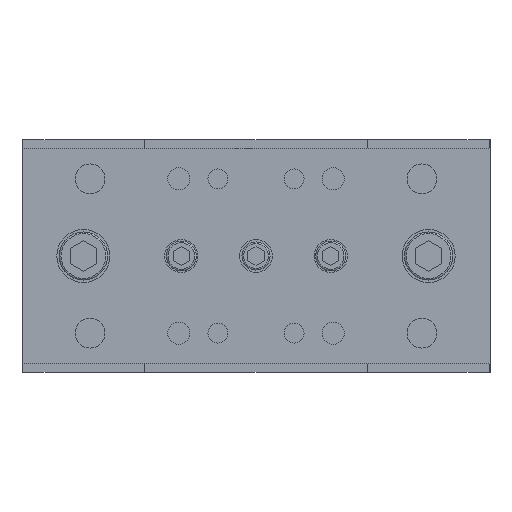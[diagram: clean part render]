
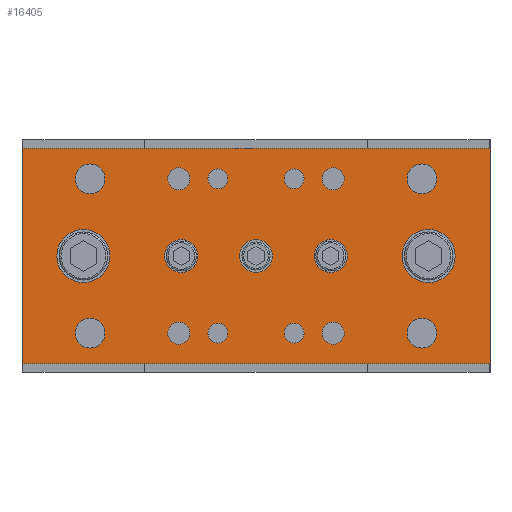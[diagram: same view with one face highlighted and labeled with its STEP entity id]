
A CAD part, front view. The second image highlights one B-rep face of the part: STEP entity #16405.
In plain terms, the highlighted planar face has unit normal (0, -1, 0).
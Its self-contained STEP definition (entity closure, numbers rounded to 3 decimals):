
#15719=CARTESIAN_POINT('',(5.0,-94.,0.));
#15720=VERTEX_POINT('',#15719);
#15721=CARTESIAN_POINT('',(0.0,-94.,0.0));
#15722=DIRECTION('',(0.0,1.0,0.0));
#15723=DIRECTION('',(-1.0,0.0,0.0));
#15724=AXIS2_PLACEMENT_3D('',#15721,#15722,#15723);
#15725=CIRCLE('',#15724,5.0);
#15726=EDGE_CURVE('',#15720,#15720,#15725,.T.);
#15759=CARTESIAN_POINT('',(-17.5,-94.,0.));
#15760=VERTEX_POINT('',#15759);
#15761=CARTESIAN_POINT('',(-22.5,-94.,0.0));
#15762=DIRECTION('',(0.0,1.0,0.0));
#15763=DIRECTION('',(-1.0,0.0,0.0));
#15764=AXIS2_PLACEMENT_3D('',#15761,#15762,#15763);
#15765=CIRCLE('',#15764,5.0);
#15766=EDGE_CURVE('',#15760,#15760,#15765,.T.);
#15799=CARTESIAN_POINT('',(27.5,-94.,0.));
#15800=VERTEX_POINT('',#15799);
#15801=CARTESIAN_POINT('',(22.5,-94.,0.0));
#15802=DIRECTION('',(0.0,1.0,0.0));
#15803=DIRECTION('',(-1.0,0.0,0.0));
#15804=AXIS2_PLACEMENT_3D('',#15801,#15802,#15803);
#15805=CIRCLE('',#15804,5.0);
#15806=EDGE_CURVE('',#15800,#15800,#15805,.T.);
#15839=CARTESIAN_POINT('',(-44.0,-94.,0.));
#15840=VERTEX_POINT('',#15839);
#15841=CARTESIAN_POINT('',(-52.0,-94.,0.0));
#15842=DIRECTION('',(0.0,1.0,0.0));
#15843=DIRECTION('',(-1.0,0.0,0.0));
#15844=AXIS2_PLACEMENT_3D('',#15841,#15842,#15843);
#15845=CIRCLE('',#15844,8.0);
#15846=EDGE_CURVE('',#15840,#15840,#15845,.T.);
#15879=CARTESIAN_POINT('',(60.,-94.,0.));
#15880=VERTEX_POINT('',#15879);
#15881=CARTESIAN_POINT('',(52.,-94.,0.0));
#15882=DIRECTION('',(0.0,1.0,0.0));
#15883=DIRECTION('',(-1.0,0.0,0.0));
#15884=AXIS2_PLACEMENT_3D('',#15881,#15882,#15883);
#15885=CIRCLE('',#15884,8.0);
#15886=EDGE_CURVE('',#15880,#15880,#15885,.T.);
#16219=CARTESIAN_POINT('',(70.5,-94.,0.0));
#16220=DIRECTION('',(0.0,-1.0,0.0));
#16221=DIRECTION('',(0.0,0.0,-1.0));
#16222=AXIS2_PLACEMENT_3D('',#16219,#16220,#16221);
#16223=PLANE('',#16222);
#16224=CARTESIAN_POINT('',(70.5,-94.,32.5));
#16225=VERTEX_POINT('',#16224);
#16226=CARTESIAN_POINT('',(-70.5,-94.,32.5));
#16227=VERTEX_POINT('',#16226);
#16228=CARTESIAN_POINT('',(70.5,-94.,32.5));
#16229=DIRECTION('',(-1.0,0.0,0.0));
#16230=VECTOR('',#16229,141.0);
#16231=LINE('',#16228,#16230);
#16232=EDGE_CURVE('',#16225,#16227,#16231,.T.);
#16233=ORIENTED_EDGE('',*,*,#16232,.T.);
#16234=CARTESIAN_POINT('',(-70.5,-94.,-32.5));
#16235=VERTEX_POINT('',#16234);
#16236=CARTESIAN_POINT('',(-70.5,-94.,32.5));
#16237=DIRECTION('',(0.0,0.0,-1.0));
#16238=VECTOR('',#16237,65.0);
#16239=LINE('',#16236,#16238);
#16240=EDGE_CURVE('',#16227,#16235,#16239,.T.);
#16241=ORIENTED_EDGE('',*,*,#16240,.T.);
#16242=CARTESIAN_POINT('',(70.5,-94.,-32.5));
#16243=VERTEX_POINT('',#16242);
#16244=CARTESIAN_POINT('',(-70.5,-94.,-32.5));
#16245=DIRECTION('',(1.0,0.0,0.0));
#16246=VECTOR('',#16245,141.0);
#16247=LINE('',#16244,#16246);
#16248=EDGE_CURVE('',#16235,#16243,#16247,.T.);
#16249=ORIENTED_EDGE('',*,*,#16248,.T.);
#16250=CARTESIAN_POINT('',(70.5,-94.,32.5));
#16251=DIRECTION('',(0.0,0.0,-1.0));
#16252=VECTOR('',#16251,65.0);
#16253=LINE('',#16250,#16252);
#16254=EDGE_CURVE('',#16225,#16243,#16253,.T.);
#16255=ORIENTED_EDGE('',*,*,#16254,.F.);
#16256=EDGE_LOOP('',(#16233,#16241,#16249,#16255));
#16257=FACE_OUTER_BOUND('',#16256,.T.);
#16258=CARTESIAN_POINT('',(-54.5,-94.,23.25));
#16259=VERTEX_POINT('',#16258);
#16260=CARTESIAN_POINT('',(-50.0,-94.,23.25));
#16261=DIRECTION('',(0.0,1.0,0.0));
#16262=DIRECTION('',(1.0,0.0,0.0));
#16263=AXIS2_PLACEMENT_3D('',#16260,#16261,#16262);
#16264=CIRCLE('',#16263,4.5);
#16265=EDGE_CURVE('',#16259,#16259,#16264,.T.);
#16266=ORIENTED_EDGE('',*,*,#16265,.T.);
#16267=EDGE_LOOP('',(#16266));
#16268=FACE_BOUND('',#16267,.T.);
#16269=CARTESIAN_POINT('',(45.5,-94.,23.25));
#16270=VERTEX_POINT('',#16269);
#16271=CARTESIAN_POINT('',(50.,-94.,23.25));
#16272=DIRECTION('',(0.0,1.0,0.0));
#16273=DIRECTION('',(1.0,0.0,0.0));
#16274=AXIS2_PLACEMENT_3D('',#16271,#16272,#16273);
#16275=CIRCLE('',#16274,4.5);
#16276=EDGE_CURVE('',#16270,#16270,#16275,.T.);
#16277=ORIENTED_EDGE('',*,*,#16276,.T.);
#16278=EDGE_LOOP('',(#16277));
#16279=FACE_BOUND('',#16278,.T.);
#16280=CARTESIAN_POINT('',(-54.5,-94.,-23.25));
#16281=VERTEX_POINT('',#16280);
#16282=CARTESIAN_POINT('',(-50.0,-94.,-23.25));
#16283=DIRECTION('',(0.0,1.0,0.0));
#16284=DIRECTION('',(1.0,0.0,0.0));
#16285=AXIS2_PLACEMENT_3D('',#16282,#16283,#16284);
#16286=CIRCLE('',#16285,4.5);
#16287=EDGE_CURVE('',#16281,#16281,#16286,.T.);
#16288=ORIENTED_EDGE('',*,*,#16287,.T.);
#16289=EDGE_LOOP('',(#16288));
#16290=FACE_BOUND('',#16289,.T.);
#16291=CARTESIAN_POINT('',(45.5,-94.,-23.25));
#16292=VERTEX_POINT('',#16291);
#16293=CARTESIAN_POINT('',(50.,-94.,-23.25));
#16294=DIRECTION('',(0.0,1.0,0.0));
#16295=DIRECTION('',(1.0,0.0,0.0));
#16296=AXIS2_PLACEMENT_3D('',#16293,#16294,#16295);
#16297=CIRCLE('',#16296,4.5);
#16298=EDGE_CURVE('',#16292,#16292,#16297,.T.);
#16299=ORIENTED_EDGE('',*,*,#16298,.T.);
#16300=EDGE_LOOP('',(#16299));
#16301=FACE_BOUND('',#16300,.T.);
#16302=CARTESIAN_POINT('',(-8.5,-94.,23.25));
#16303=VERTEX_POINT('',#16302);
#16304=CARTESIAN_POINT('',(-11.5,-94.,23.25));
#16305=DIRECTION('',(0.0,1.0,0.0));
#16306=DIRECTION('',(-1.0,0.0,0.0));
#16307=AXIS2_PLACEMENT_3D('',#16304,#16305,#16306);
#16308=CIRCLE('',#16307,3.);
#16309=EDGE_CURVE('',#16303,#16303,#16308,.T.);
#16310=ORIENTED_EDGE('',*,*,#16309,.T.);
#16311=EDGE_LOOP('',(#16310));
#16312=FACE_BOUND('',#16311,.T.);
#16313=CARTESIAN_POINT('',(14.5,-94.,23.25));
#16314=VERTEX_POINT('',#16313);
#16315=CARTESIAN_POINT('',(11.5,-94.,23.25));
#16316=DIRECTION('',(0.0,1.0,0.0));
#16317=DIRECTION('',(-1.0,0.0,0.0));
#16318=AXIS2_PLACEMENT_3D('',#16315,#16316,#16317);
#16319=CIRCLE('',#16318,3.);
#16320=EDGE_CURVE('',#16314,#16314,#16319,.T.);
#16321=ORIENTED_EDGE('',*,*,#16320,.T.);
#16322=EDGE_LOOP('',(#16321));
#16323=FACE_BOUND('',#16322,.T.);
#16324=CARTESIAN_POINT('',(-8.5,-94.,-23.25));
#16325=VERTEX_POINT('',#16324);
#16326=CARTESIAN_POINT('',(-11.5,-94.,-23.25));
#16327=DIRECTION('',(0.0,1.0,0.0));
#16328=DIRECTION('',(-1.0,0.0,0.0));
#16329=AXIS2_PLACEMENT_3D('',#16326,#16327,#16328);
#16330=CIRCLE('',#16329,3.);
#16331=EDGE_CURVE('',#16325,#16325,#16330,.T.);
#16332=ORIENTED_EDGE('',*,*,#16331,.T.);
#16333=EDGE_LOOP('',(#16332));
#16334=FACE_BOUND('',#16333,.T.);
#16335=CARTESIAN_POINT('',(14.5,-94.,-23.25));
#16336=VERTEX_POINT('',#16335);
#16337=CARTESIAN_POINT('',(11.5,-94.,-23.25));
#16338=DIRECTION('',(0.0,1.0,0.0));
#16339=DIRECTION('',(-1.0,0.0,0.0));
#16340=AXIS2_PLACEMENT_3D('',#16337,#16338,#16339);
#16341=CIRCLE('',#16340,3.);
#16342=EDGE_CURVE('',#16336,#16336,#16341,.T.);
#16343=ORIENTED_EDGE('',*,*,#16342,.T.);
#16344=EDGE_LOOP('',(#16343));
#16345=FACE_BOUND('',#16344,.T.);
#16346=CARTESIAN_POINT('',(-19.927,-94.,23.25));
#16347=VERTEX_POINT('',#16346);
#16348=CARTESIAN_POINT('',(-23.25,-94.,23.25));
#16349=DIRECTION('',(0.0,1.0,0.0));
#16350=DIRECTION('',(1.0,0.0,0.0));
#16351=AXIS2_PLACEMENT_3D('',#16348,#16349,#16350);
#16352=CIRCLE('',#16351,3.324);
#16353=EDGE_CURVE('',#16347,#16347,#16352,.T.);
#16354=ORIENTED_EDGE('',*,*,#16353,.T.);
#16355=EDGE_LOOP('',(#16354));
#16356=FACE_BOUND('',#16355,.T.);
#16357=CARTESIAN_POINT('',(26.573,-94.,23.25));
#16358=VERTEX_POINT('',#16357);
#16359=CARTESIAN_POINT('',(23.25,-94.,23.25));
#16360=DIRECTION('',(0.0,1.0,0.0));
#16361=DIRECTION('',(1.0,0.0,0.0));
#16362=AXIS2_PLACEMENT_3D('',#16359,#16360,#16361);
#16363=CIRCLE('',#16362,3.324);
#16364=EDGE_CURVE('',#16358,#16358,#16363,.T.);
#16365=ORIENTED_EDGE('',*,*,#16364,.T.);
#16366=EDGE_LOOP('',(#16365));
#16367=FACE_BOUND('',#16366,.T.);
#16368=CARTESIAN_POINT('',(-19.927,-94.,-23.25));
#16369=VERTEX_POINT('',#16368);
#16370=CARTESIAN_POINT('',(-23.25,-94.,-23.25));
#16371=DIRECTION('',(0.0,1.0,0.0));
#16372=DIRECTION('',(1.0,0.0,0.0));
#16373=AXIS2_PLACEMENT_3D('',#16370,#16371,#16372);
#16374=CIRCLE('',#16373,3.324);
#16375=EDGE_CURVE('',#16369,#16369,#16374,.T.);
#16376=ORIENTED_EDGE('',*,*,#16375,.T.);
#16377=EDGE_LOOP('',(#16376));
#16378=FACE_BOUND('',#16377,.T.);
#16379=CARTESIAN_POINT('',(26.573,-94.,-23.25));
#16380=VERTEX_POINT('',#16379);
#16381=CARTESIAN_POINT('',(23.25,-94.,-23.25));
#16382=DIRECTION('',(0.0,1.0,0.0));
#16383=DIRECTION('',(1.0,0.0,0.0));
#16384=AXIS2_PLACEMENT_3D('',#16381,#16382,#16383);
#16385=CIRCLE('',#16384,3.324);
#16386=EDGE_CURVE('',#16380,#16380,#16385,.T.);
#16387=ORIENTED_EDGE('',*,*,#16386,.T.);
#16388=EDGE_LOOP('',(#16387));
#16389=FACE_BOUND('',#16388,.T.);
#16390=ORIENTED_EDGE('',*,*,#15886,.T.);
#16391=EDGE_LOOP('',(#16390));
#16392=FACE_BOUND('',#16391,.T.);
#16393=ORIENTED_EDGE('',*,*,#15846,.T.);
#16394=EDGE_LOOP('',(#16393));
#16395=FACE_BOUND('',#16394,.T.);
#16396=ORIENTED_EDGE('',*,*,#15806,.T.);
#16397=EDGE_LOOP('',(#16396));
#16398=FACE_BOUND('',#16397,.T.);
#16399=ORIENTED_EDGE('',*,*,#15766,.T.);
#16400=EDGE_LOOP('',(#16399));
#16401=FACE_BOUND('',#16400,.T.);
#16402=ORIENTED_EDGE('',*,*,#15726,.T.);
#16403=EDGE_LOOP('',(#16402));
#16404=FACE_BOUND('',#16403,.T.);
#16405=ADVANCED_FACE('',(#16257,#16268,#16279,#16290,#16301,#16312,#16323,#16334,#16345,#16356,#16367,#16378,#16389,#16392,#16395,#16398,#16401,#16404),#16223,.T.);
